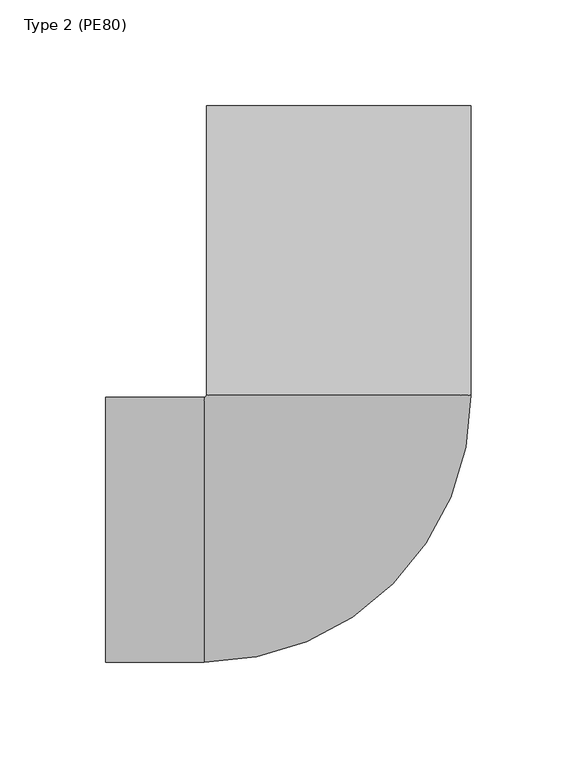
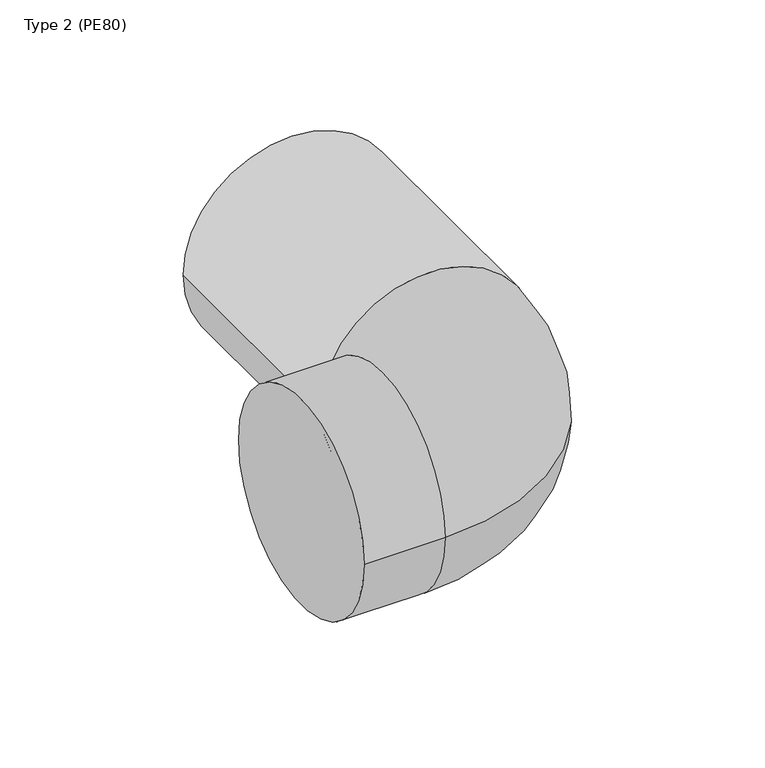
"""IFC4 building model written with IfcOpenShell, lengths in millimetres: pipe fitting geometry, NLRS_52_PIF_UN_HDPE bend long leg_Akatherm : Type 2 (PE80)."""

from ifc_helpers import new_model, si_unit, point, frame, origin, place, context, project, spatial, circle_curve, ellipse_curve, trimmed, source, transform, mapped, element, save
from ifc_brep_helpers import plane_surface, cylinder_surface, revolved_surface, advanced_brep


def type_2_pe80_8ce7701b(model_context):
    return source(origin(), model_context, "Body", "AdvancedBrep", [
        advanced_brep(
        [(-110.0, -62.5, 0.0), (-110.0, 62.5, 0.0), (-63.5, -62.5, 0.0), (-63.5, 62.5, 0.0), (-62.5, 63.5, 0.0), (62.5, 63.5, 0.0), (62.5, 200.0, 0.0), (-62.5, 200.0, 0.0)],
        [
            (0, 1, circle_curve(frame((-110.0, 0.0, 0.0), z_axis=(-1.0, 0.0, 0.0), x_axis=(0.0, 1.0, 0.0)), 62.5)),
            (1, 0, circle_curve(frame((-110.0, 0.0, 0.0), z_axis=(-1.0, 0.0, 0.0), x_axis=(0.0, 1.0, 0.0)), 62.5)),
            (0, 2),
            (2, 3, circle_curve(frame((-63.5, 0.0, 0.0), z_axis=(-1.0, 0.0, 0.0), x_axis=(0.0, 1.0, 0.0)), 62.5)),
            (3, 1),
            (3, 2, circle_curve(frame((-63.5, 0.0, 0.0), z_axis=(-1.0, 0.0, 0.0), x_axis=(0.0, 1.0, 0.0)), 62.5)),
            (4, 3, circle_curve(frame((-63.5, 63.5, 0.0), z_axis=(0.0, 0.0, -1.0), x_axis=(0.0, -1.0, 0.0)), 1.0)),
            (2, 5, circle_curve(frame((-63.5, 63.5, 0.0), z_axis=(0.0, 0.0, 1.0), x_axis=(0.0, -1.0, 0.0)), 126.0)),
            (5, 4, circle_curve(frame((0.0, 63.5, 0.0), z_axis=(0.0, -1.0, 0.0), x_axis=(-1.0, 0.0, 0.0)), 62.5)),
            (4, 5, circle_curve(frame((0.0, 63.5, 0.0), z_axis=(0.0, -1.0, 0.0), x_axis=(-1.0, 0.0, 0.0)), 62.5)),
            (6, 7, circle_curve(frame((0.0, 200.0, 0.0), z_axis=(0.0, 1.0, 0.0), x_axis=(-1.0, 0.0, 0.0)), 62.5)),
            (7, 6, circle_curve(frame((0.0, 200.0, 0.0), z_axis=(0.0, 1.0, 0.0), x_axis=(-1.0, 0.0, 0.0)), 62.5)),
            (5, 6),
            (7, 4),
        ],
        [
            plane_surface(frame((-110.0, 0.0, 0.0), z_axis=(-1.0, 0.0, 0.0), x_axis=(0.0, 0.0, 1.0))),
            cylinder_surface(frame((-110.0, 0.0, 0.0), z_axis=(-1.0, 0.0, 0.0), x_axis=(0.0, 1.0, 0.0)), 62.5),
            revolved_surface(trimmed(ellipse_curve(frame((-63.5, 0.0, 0.0), z_axis=(-1.0, 0.0, 0.0), x_axis=(0.0, 1.0, 0.0)), 62.5, 62.5), [point((-63.5, -62.5, 0.0))], [point((-63.5, 62.5, 0.0))], True, "CARTESIAN"), (-63.5, 63.5, 0.0), (0.0, 0.0, 1.0)),
            revolved_surface(trimmed(ellipse_curve(frame((-63.5, 0.0, 0.0), z_axis=(-1.0, 0.0, 0.0), x_axis=(0.0, 1.0, 0.0)), 62.5, 62.5), [point((-63.5, 62.5, 0.0))], [point((-63.5, -62.5, 0.0))], True, "CARTESIAN"), (-63.5, 63.5, 0.0), (0.0, 0.0, 1.0)),
            plane_surface(frame((0.0, 200.0, 0.0), z_axis=(0.0, 1.0, 0.0), x_axis=(0.0, 0.0, 1.0))),
            cylinder_surface(frame((0.0, 63.5, 0.0), z_axis=(0.0, -1.0, 0.0), x_axis=(-1.0, 0.0, 0.0)), 62.5),
        ],
        [
            (0, [[1, 2]]),
            (1, [[-1, 3, 4, 5]]),
            (1, [[-2, -5, 6, -3]]),
            (2, [[7, -4, 8, 9]]),
            (3, [[-8, -6, -7, 10]]),
            (4, [[11, 12]]),
            (5, [[-9, 13, -12, 14]]),
            (5, [[-10, -14, -11, -13]]),
        ],
    ),
    ])


if __name__ == "__main__":
    model = new_model("IFC4")
    model_context = context("Model", 3, world=origin())
    ifc_project = project(units=[si_unit("LENGTHUNIT", "METRE", prefix="MILLI")], contexts=[model_context])
    site = spatial("IfcSite", under=ifc_project)
    building = spatial("IfcBuilding", under=site)
    placement = place(None, origin())
    type_2_pe80_shape = type_2_pe80_8ce7701b(model_context)
    element("IfcPipeFitting", 1, ObjectType="NLRS_52_PIF_UN_HDPE bend long leg_Akatherm : Type 2 (PE80)", at=placement, inside=building, context=model_context, shape_type="MappedRepresentation", body=[
        mapped(type_2_pe80_shape, transform((0.0, 0.0, 0.0), x_axis=(1.0, 0.0, 0.0), y_axis=(0.0, 1.0, 0.0), z_axis=(0.0, 0.0, 1.0))),
    ])
    save(model, "model.ifc")
